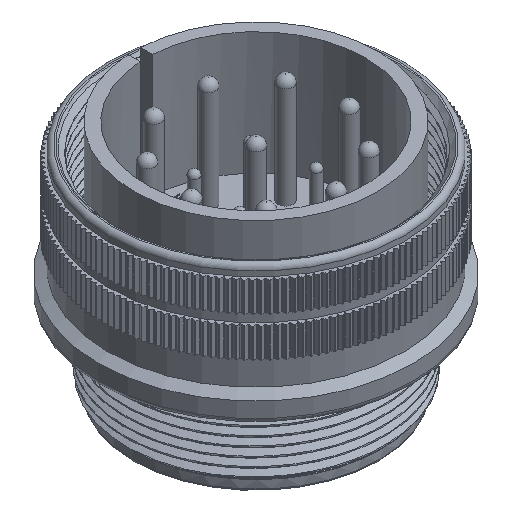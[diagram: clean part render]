
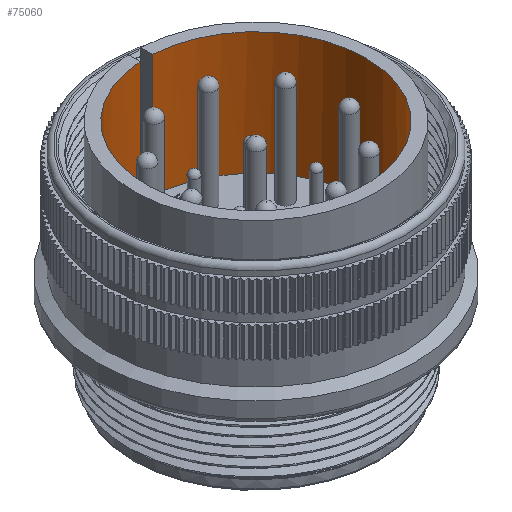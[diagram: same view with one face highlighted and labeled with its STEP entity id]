
A CAD part, isometric view. The second image highlights one B-rep face of the part: STEP entity #75060.
In plain terms, the highlighted cylindrical face has radius 17.4 mm (diameter 34.8 mm), a full revolution.
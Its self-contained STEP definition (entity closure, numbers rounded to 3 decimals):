
#361 = CIRCLE ( 'NONE', #84243, 17.4 ) ;
#4600 = EDGE_CURVE ( 'NONE', #16614, #69444, #46688, .T. ) ;
#8216 = AXIS2_PLACEMENT_3D ( 'NONE', #93856, #85729, #93461 ) ;
#9068 = ORIENTED_EDGE ( 'NONE', *, *, #4600, .T. ) ;
#13410 = EDGE_CURVE ( 'NONE', #19885, #16614, #39841, .T. ) ;
#13615 = CYLINDRICAL_SURFACE ( 'NONE', #8216, 17.4 ) ;
#16045 = CARTESIAN_POINT ( 'NONE',  ( 0., 0., 0. ) ) ;
#16614 = VERTEX_POINT ( 'NONE', #18239 ) ;
#18239 = CARTESIAN_POINT ( 'NONE',  ( 1., 17.371, 0. ) ) ;
#19885 = VERTEX_POINT ( 'NONE', #69715 ) ;
#21917 = EDGE_CURVE ( 'NONE', #69444, #53269, #71394, .T. ) ;
#22265 = CARTESIAN_POINT ( 'NONE',  ( 1., 17.371, -20.93 ) ) ;
#23426 = CARTESIAN_POINT ( 'NONE',  ( 0., 0., -19.42 ) ) ;
#23514 = ORIENTED_EDGE ( 'NONE', *, *, #21917, .T. ) ;
#23951 = DIRECTION ( 'NONE',  ( 0., 0., 1. ) ) ;
#24755 = DIRECTION ( 'NONE',  ( 0., 0., 1. ) ) ;
#32448 = EDGE_CURVE ( 'NONE', #89905, #89905, #361, .T. ) ;
#36259 = EDGE_LOOP ( 'NONE', ( #108025, #74305, #9068, #23514 ) ) ;
#36761 = FACE_OUTER_BOUND ( 'NONE', #36259, .T. ) ;
#39841 = CIRCLE ( 'NONE', #91110, 17.4 ) ;
#39881 = CARTESIAN_POINT ( 'NONE',  ( 17.4, 0., -19.42 ) ) ;
#43415 = AXIS2_PLACEMENT_3D ( 'NONE', #58287, #23951, #85015 ) ;
#46688 = LINE ( 'NONE', #22265, #57682 ) ;
#52264 = CARTESIAN_POINT ( 'NONE',  ( -1., 17.371, -20.93 ) ) ;
#53269 = VERTEX_POINT ( 'NONE', #89462 ) ;
#57682 = VECTOR ( 'NONE', #92141, 1000. ) ;
#58287 = CARTESIAN_POINT ( 'NONE',  ( 0., 0., -17.91 ) ) ;
#69444 = VERTEX_POINT ( 'NONE', #71037 ) ;
#69715 = CARTESIAN_POINT ( 'NONE',  ( -1., 17.371, 0. ) ) ;
#71037 = CARTESIAN_POINT ( 'NONE',  ( 1., 17.371, -17.91 ) ) ;
#71394 = CIRCLE ( 'NONE', #43415, 17.4 ) ;
#74305 = ORIENTED_EDGE ( 'NONE', *, *, #13410, .T. ) ;
#75060 = ADVANCED_FACE ( 'NONE', ( #85937, #36761 ), #13615, .F. ) ;
#82767 = VECTOR ( 'NONE', #104378, 1000. ) ;
#84243 = AXIS2_PLACEMENT_3D ( 'NONE', #23426, #102203, #102578 ) ;
#84982 = ORIENTED_EDGE ( 'NONE', *, *, #32448, .T. ) ;
#85015 = DIRECTION ( 'NONE',  ( 1., 0., 0. ) ) ;
#85729 = DIRECTION ( 'NONE',  ( 0., 0., 1. ) ) ;
#85824 = DIRECTION ( 'NONE',  ( 1., 0., 0. ) ) ;
#85937 = FACE_OUTER_BOUND ( 'NONE', #89055, .T. ) ;
#88208 = LINE ( 'NONE', #52264, #82767 ) ;
#89055 = EDGE_LOOP ( 'NONE', ( #84982 ) ) ;
#89462 = CARTESIAN_POINT ( 'NONE',  ( -1., 17.371, -17.91 ) ) ;
#89905 = VERTEX_POINT ( 'NONE', #39881 ) ;
#91110 = AXIS2_PLACEMENT_3D ( 'NONE', #16045, #24755, #85824 ) ;
#92141 = DIRECTION ( 'NONE',  ( 0., 0., -1. ) ) ;
#93461 = DIRECTION ( 'NONE',  ( 1., 0., 0. ) ) ;
#93856 = CARTESIAN_POINT ( 'NONE',  ( 0., 0., -20.93 ) ) ;
#102203 = DIRECTION ( 'NONE',  ( 0., 0., -1. ) ) ;
#102578 = DIRECTION ( 'NONE',  ( 1., 0., 0. ) ) ;
#104378 = DIRECTION ( 'NONE',  ( 0., 0., 1. ) ) ;
#106658 = EDGE_CURVE ( 'NONE', #53269, #19885, #88208, .T. ) ;
#108025 = ORIENTED_EDGE ( 'NONE', *, *, #106658, .T. ) ;
